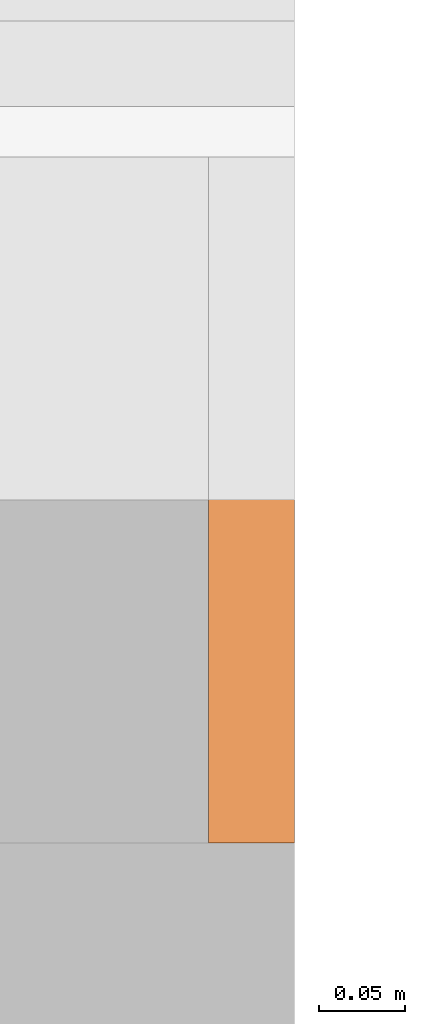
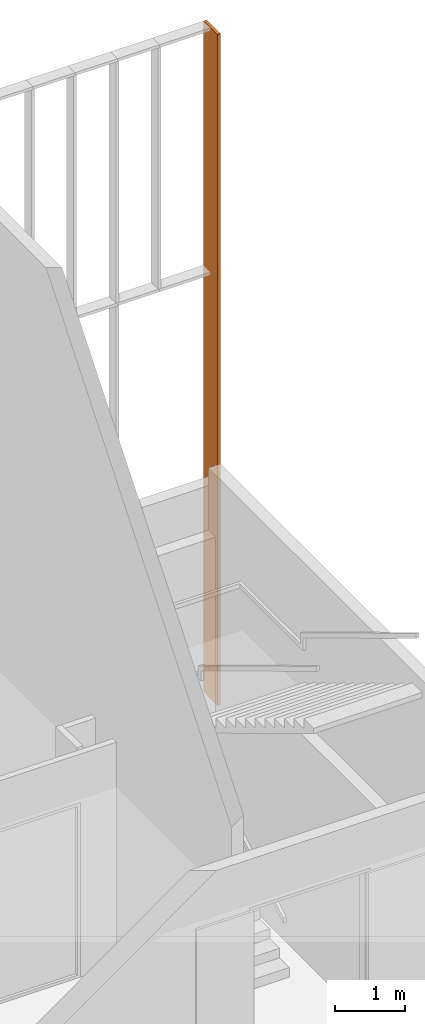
# One storey, part 240 of 240: 1 proxy.
"""IFC2X3 building model written with IfcOpenShell, lengths in centimetres."""

import ifcopenshell
import ifcopenshell.guid

model = None  # the IFC model being written
_history = None  # IfcOwnerHistory: only IFC2X3 demands one
_inside = {}  # id of a spatial element -> (the spatial element, [elements in it])
_under = {}  # id of a project, library or spatial element -> (it, [spatial elements below it])
_declared = {}  # id of a project -> (the project, [libraries it declares])
_typed = {}  # id of a type object -> (the type object, [elements of that type])
_made_of = {}  # id of a material, layer set ... -> (it, [elements and type objects made of it])


def new_model(schema):
    """Start an empty IFC model of exactly this schema.

    Asked for "IFC4X3", IfcOpenShell would pick the latest addendum, in which some entities
    have other attributes; the version numbers below select the first issue.
    IFC2X3 requires an IfcOwnerHistory on every rooted entity: one is made here for all.
    """
    global model, _history
    if schema == "IFC4X3":
        model = ifcopenshell.file(schema_version=(4, 3, 0, 0))
    else:
        model = ifcopenshell.file(schema=schema)
    _inside.clear()
    _under.clear()
    _declared.clear()
    _typed.clear()
    _made_of.clear()
    _history = None
    if model.schema == "IFC2X3":
        org = make("IfcOrganization", Name="unknown")
        user = make(
            "IfcPersonAndOrganization",
            ThePerson=make("IfcPerson", FamilyName="unknown"),
            TheOrganization=org,
        )
        app = make(
            "IfcApplication",
            ApplicationDeveloper=org,
            Version="unknown",
            ApplicationFullName="unknown",
            ApplicationIdentifier="unknown",
        )
        _history = make(
            "IfcOwnerHistory",
            OwningUser=user,
            OwningApplication=app,
            ChangeAction="ADDED",
            CreationDate=0,
        )
    return model


def make(cls, **values):
    """One entity of the class cls with the attributes given. An attribute that is None is left unset."""
    return model.create_entity(
        cls, **{name: value for name, value in values.items() if value is not None}
    )


def entity(cls, *values):
    """Any entity or typed value of the class cls, its attributes in the order of the schema. None: left unset."""
    e = model.create_entity(cls)
    for i, value in enumerate(values):
        if value is not None:
            e[i] = value
    return e


def rooted(cls, **values):
    """An entity with a GlobalId (a new one), such as an element, a storey or a relation."""
    return make(cls, GlobalId=ifcopenshell.guid.new(), OwnerHistory=_history, **values)


def si_unit(unit_type, name, prefix=None):
    """IfcSIUnit, for example si_unit("LENGTHUNIT", "METRE", prefix="MILLI")."""
    return make("IfcSIUnit", UnitType=unit_type, Prefix=prefix, Name=name)


def converted_unit(unit_type, name, factor, base, dimensions=None, offset=None):
    """IfcConversionBasedUnit, such as the inch: factor (a typed value) times the base unit."""
    return make(
        "IfcConversionBasedUnit"
        if offset is None
        else "IfcConversionBasedUnitWithOffset",
        ConversionOffset=offset,
        Dimensions=None
        if dimensions is None
        else entity("IfcDimensionalExponents", *dimensions),
        UnitType=unit_type,
        Name=name,
        ConversionFactor=make(
            "IfcMeasureWithUnit", ValueComponent=factor, UnitComponent=base
        ),
    )


def derived_unit(unit_type, elements):
    """IfcDerivedUnit: a product of units, each with its exponent."""
    return make(
        "IfcDerivedUnit",
        Elements=[
            make("IfcDerivedUnitElement", Unit=unit, Exponent=power)
            for unit, power in elements
        ],
        UnitType=unit_type,
    )


def assignment(units):
    """IfcUnitAssignment: the units of a project."""
    return None if units is None else make("IfcUnitAssignment", Units=units)


def point(xyz):
    """IfcCartesianPoint."""
    return None if xyz is None else make("IfcCartesianPoint", Coordinates=xyz)


def direction(xyz):
    """IfcDirection."""
    return None if xyz is None else make("IfcDirection", DirectionRatios=xyz)


def frame(location, z_axis=None, x_axis=None):
    """IfcAxis2Placement3D, a coordinate frame: its origin and axes. An axis left out is left unset."""
    return make(
        "IfcAxis2Placement3D",
        Location=point(location),
        Axis=direction(z_axis),
        RefDirection=direction(x_axis),
    )


def frame_2d(location, x_axis=None):
    """IfcAxis2Placement2D, a coordinate frame in the plane: its origin and x axis."""
    return make(
        "IfcAxis2Placement2D", Location=point(location), RefDirection=direction(x_axis)
    )


def origin():
    """The frame at (0, 0, 0) with its axes left unset."""
    return frame((0.0, 0.0, 0.0))


def place(relative_to, where):
    """IfcLocalPlacement: puts the frame where relative to a parent placement (None: the world)."""
    return make(
        "IfcLocalPlacement", PlacementRelTo=relative_to, RelativePlacement=where
    )


def context(
    kind, dimensions, precision=None, world=None, true_north=None, identifier=None
):
    """IfcGeometricRepresentationContext, for example the 3D "Model" context."""
    return make(
        "IfcGeometricRepresentationContext",
        ContextIdentifier=identifier,
        ContextType=kind,
        CoordinateSpaceDimension=dimensions,
        Precision=precision,
        WorldCoordinateSystem=world,
        TrueNorth=true_north,
    )


def subcontext(parent, identifier, kind, view, scale=None):
    """IfcGeometricRepresentationSubContext, for example "Body" below "Model"."""
    return make(
        "IfcGeometricRepresentationSubContext",
        ContextIdentifier=identifier,
        ContextType=kind,
        ParentContext=parent,
        TargetScale=scale,
        TargetView=view,
    )


def project(units=None, contexts=None):
    """IfcProject with its units and contexts."""
    return rooted(
        "IfcProject",
        Name="project",
        RepresentationContexts=contexts,
        UnitsInContext=assignment(units),
    )


def spatial(cls, under=None, at=None, **own):
    """A site, building, storey or space (cls), placed at a placement, below another one or the project."""
    s = rooted(cls, ObjectPlacement=at, **own)
    if under is not None:
        _under.setdefault(under.id(), (under, []))[1].append(s)
    return s


def profile(cls, at=None, kind="AREA", **sizes):
    """A parametric profile (cls). Its sizes go by their IFC names, for example OverallWidth=200.0."""
    return make(cls, ProfileType=kind, Position=at, **sizes)


def rectangle(**sizes):
    """IfcRectangleProfileDef."""
    return profile("IfcRectangleProfileDef", **sizes)


def extrude(swept, where, along, depth):
    """IfcExtrudedAreaSolid: the profile swept, set in the frame where, extruded along a direction by depth."""
    return make(
        "IfcExtrudedAreaSolid",
        SweptArea=swept,
        Position=where,
        ExtrudedDirection=direction(along),
        Depth=depth,
    )


def shape(context_of_items, identifier, shape_type, items):
    """IfcShapeRepresentation: the items that make up one representation, for example the "Body"."""
    return make(
        "IfcShapeRepresentation",
        ContextOfItems=context_of_items,
        RepresentationIdentifier=identifier,
        RepresentationType=shape_type,
        Items=items,
    )


def source(mapping_origin, context_of_items, identifier, shape_type, items):
    """IfcRepresentationMap: a shape defined once, which mapped items show again and again."""
    return make(
        "IfcRepresentationMap",
        MappingOrigin=mapping_origin,
        MappedRepresentation=shape(context_of_items, identifier, shape_type, items),
    )


def transform(
    local_origin,
    x_axis=None,
    y_axis=None,
    z_axis=None,
    scale=None,
    scale2=None,
    scale3=None,
    uniform=True,
):
    """IfcCartesianTransformationOperator3D, or its non-uniform kind. x_axis, y_axis, z_axis: its Axis1, 2, 3."""
    if uniform:
        return make(
            "IfcCartesianTransformationOperator3D",
            Axis1=direction(x_axis),
            Axis2=direction(y_axis),
            LocalOrigin=point(local_origin),
            Scale=scale,
            Axis3=direction(z_axis),
        )
    return make(
        "IfcCartesianTransformationOperator3DnonUniform",
        Axis1=direction(x_axis),
        Axis2=direction(y_axis),
        LocalOrigin=point(local_origin),
        Scale=scale,
        Axis3=direction(z_axis),
        Scale2=scale2,
        Scale3=scale3,
    )


def mapped(mapping_source, mapping_target):
    """IfcMappedItem: shows the shape of a source again, moved by a transform."""
    return make(
        "IfcMappedItem", MappingSource=mapping_source, MappingTarget=mapping_target
    )


def material(Name=None, Category=None):
    """IfcMaterial."""
    return make("IfcMaterial", Name=Name, Category=Category)


def made_of(thing, what):
    """Note that an element or type object is made of a material, layer set ...; save() writes the relation."""
    if what is not None:
        _made_of.setdefault(what.id(), (what, []))[1].append(thing)
    return thing


def type_object(cls, material=None, **own):
    """A type object (cls), such as IfcWallType, which elements share."""
    return made_of(rooted(cls, **own), material)


def type_shapes(of_type, sources):
    """Give a type object the sources (RepresentationMaps) that its elements show as mapped items."""
    of_type.RepresentationMaps = sources


def element(
    cls,
    number,
    at=None,
    inside=None,
    cuts=None,
    type_object=None,
    material=None,
    context=None,
    identifier="Body",
    shape_type=None,
    held_by="IfcProductDefinitionShape",
    body=None,
    shapes=None,
    **own,
):
    """One element of the class cls, such as IfcWall. Its Tag is "e" and its number.

    at: its placement. inside: the storey or other place that contains it. cuts: it is an
    opening in that element (IfcRelVoidsElement). A single representation is given by context,
    identifier, shape_type and body (its items); several are given by shapes. held_by: the class
    of the entity that holds the representations. save() writes the other relations.
    """
    e = rooted(cls, Tag="e%d" % number, ObjectPlacement=at, **own)
    if body is not None:
        shapes = [shape(context, identifier, shape_type, body)]
    if shapes is not None:
        e.Representation = make(held_by, Representations=shapes)
    if inside is not None:
        _inside.setdefault(inside.id(), (inside, []))[1].append(e)
    if cuts is not None:
        rooted(
            "IfcRelVoidsElement", RelatingBuildingElement=cuts, RelatedOpeningElement=e
        )
    if type_object is not None:
        _typed.setdefault(type_object.id(), (type_object, []))[1].append(e)
    return made_of(e, material)


def aggregate(whole, parts):
    """IfcRelAggregates: a whole, such as a stair, and the parts it consists of."""
    return rooted("IfcRelAggregates", RelatingObject=whole, RelatedObjects=parts)


def save(model, path):
    """Write the relations noted so far, then the file.

    IfcRelAggregates (storeys below a building ...), IfcRelContainedInSpatialStructure (elements
    in a storey), IfcRelDefinesByType, IfcRelAssociatesMaterial and IfcRelDeclares: one each for
    every whole, place, type object, material and project.
    """
    for whole, parts in _under.values():
        aggregate(whole, parts)
    for where, things in _inside.values():
        rooted(
            "IfcRelContainedInSpatialStructure",
            RelatedElements=things,
            RelatingStructure=where,
        )
    for kind, things in _typed.values():
        rooted("IfcRelDefinesByType", RelatedObjects=things, RelatingType=kind)
    for what, things in _made_of.values():
        rooted("IfcRelAssociatesMaterial", RelatedObjects=things, RelatingMaterial=what)
    for by, libraries in _declared.values():
        rooted("IfcRelDeclares", RelatingContext=by, RelatedDefinitions=libraries)
    model.write(path)


model = new_model("IFC2X3")

# Units and contexts
model_context = context("Model", 3, precision=0.001, world=origin(), true_north=direction((6.12303176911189e-17, 1.0)))
body_context = subcontext(model_context, "Body", "Model", "MODEL_VIEW")
ifc_project = project(units=[si_unit("LENGTHUNIT", "METRE", prefix="CENTI"), si_unit("AREAUNIT", "SQUARE_METRE"), si_unit("VOLUMEUNIT", "CUBIC_METRE"), converted_unit("PLANEANGLEUNIT", "DEGREE", entity("IfcRatioMeasure", 0.0174532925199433), si_unit("PLANEANGLEUNIT", "RADIAN"), dimensions=[0, 0, 0, 0, 0, 0, 0]), si_unit("MASSUNIT", "GRAM", prefix="KILO"), derived_unit("MASSDENSITYUNIT", [(si_unit("MASSUNIT", "GRAM", prefix="KILO"), 1), (si_unit("LENGTHUNIT", "METRE"), -3)]), si_unit("TIMEUNIT", "SECOND"), si_unit("FREQUENCYUNIT", "HERTZ"), si_unit("THERMODYNAMICTEMPERATUREUNIT", "DEGREE_CELSIUS"), derived_unit("THERMALTRANSMITTANCEUNIT", [(si_unit("MASSUNIT", "GRAM", prefix="KILO"), 1), (si_unit("THERMODYNAMICTEMPERATUREUNIT", "KELVIN"), -1), (si_unit("TIMEUNIT", "SECOND"), -3)]), derived_unit("VOLUMETRICFLOWRATEUNIT", [(si_unit("LENGTHUNIT", "METRE"), 3), (si_unit("TIMEUNIT", "SECOND"), -1)]), si_unit("ELECTRICCURRENTUNIT", "AMPERE"), si_unit("ELECTRICVOLTAGEUNIT", "VOLT"), si_unit("POWERUNIT", "WATT"), si_unit("FORCEUNIT", "NEWTON", prefix="KILO"), si_unit("ILLUMINANCEUNIT", "LUX"), si_unit("LUMINOUSFLUXUNIT", "LUMEN"), si_unit("LUMINOUSINTENSITYUNIT", "CANDELA"), derived_unit("USERDEFINED", [(si_unit("MASSUNIT", "GRAM", prefix="KILO"), -1), (si_unit("LENGTHUNIT", "METRE"), -2), (si_unit("TIMEUNIT", "SECOND"), 3), (si_unit("LUMINOUSFLUXUNIT", "LUMEN"), 1)]), derived_unit("LINEARVELOCITYUNIT", [(si_unit("LENGTHUNIT", "METRE"), 1), (si_unit("TIMEUNIT", "SECOND"), -1)]), si_unit("PRESSUREUNIT", "PASCAL"), derived_unit("USERDEFINED", [(si_unit("LENGTHUNIT", "METRE"), -2), (si_unit("MASSUNIT", "GRAM", prefix="KILO"), 1), (si_unit("TIMEUNIT", "SECOND"), -2)])], contexts=[model_context])

# Site, building, storey
site_placement = place(None, frame((-2781.94577612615, 7442.24238424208, 0.0)))
site = spatial("IfcSite", under=ifc_project, at=site_placement, Name="Default", CompositionType="ELEMENT")
building_placement = place(site_placement, origin())
building = spatial("IfcBuilding", under=site, at=building_placement, CompositionType="ELEMENT")
storey_placement = place(building_placement, origin())
storey = spatial("IfcBuildingStorey", under=building, at=storey_placement, Name="N00 - COO", CompositionType="ELEMENT", Elevation=0.0)

# Proxy
ifc_material = material(Name="Aluminium")
building_element_proxy_type = type_object("IfcBuildingElementProxyType", Name="Menneau extrémité façade", PredefinedType="NOTDEFINED", material=ifc_material)
shared_shape = source(origin(), body_context, "Body", "SweptSolid", [
    extrude(rectangle(XDim=4.99999684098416, YDim=40.0000000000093, at=frame_2d((0.0, 1.08357767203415e-13), x_axis=(1.0, 0.0))), frame((-392.499881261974, -1070.0, 0.0), z_axis=(0.0, 0.0, 1.0), x_axis=(-1.0, 0.0, 0.0)), (0.0, 0.0, 1.0), 1176.0),
])
type_shapes(building_element_proxy_type, [shared_shape])
proxy_placement = place(building_placement, origin())
element("IfcBuildingElementProxy", 1, at=proxy_placement, inside=storey, type_object=building_element_proxy_type, material=ifc_material, Name="Menneau extrémité façade:Menneau extrémité façade", ObjectType="Menneau extrémité façade:Menneau extrémité façade", context=body_context, shape_type="MappedRepresentation", body=[
    mapped(shared_shape, transform((0.0, 0.0, 0.0), scale=1.0)),
])

save(model, "model.ifc")
